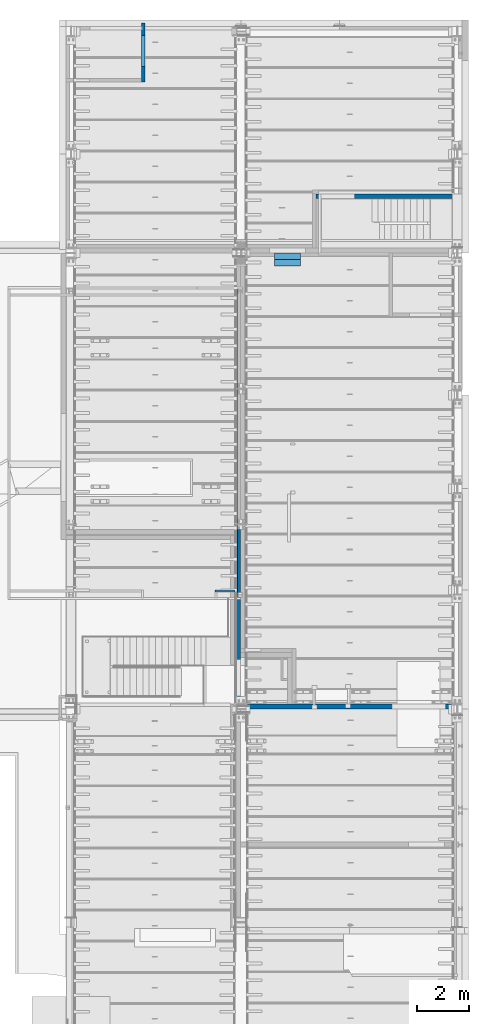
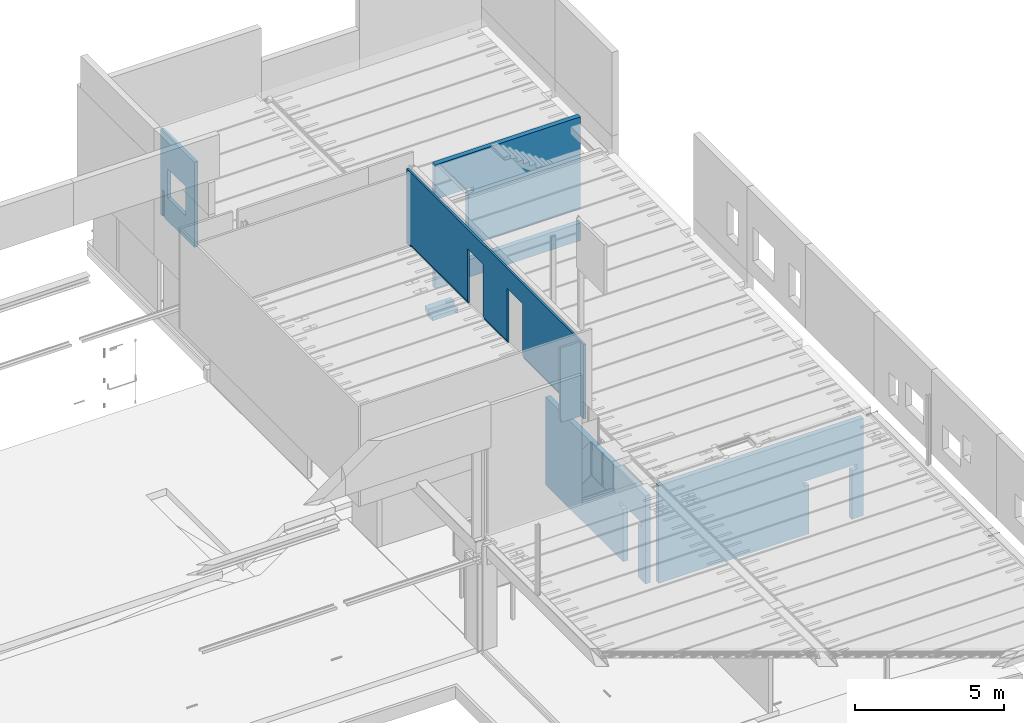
# One storey, part 211 of 230: 6 walls, 1 stair flight, 1 element without a shape of its own.
"""IFC4X3_ADD2 building model written with IfcOpenShell, lengths in millimetres."""

from ifc_helpers import new_model, si_unit, direction, frame, origin_with_axes, place, context, subcontext, project, spatial, polygons, source, transform, mapped, material, type_object, type_shapes, element, aggregate, save


model = new_model("IFC4X3_ADD2")

# Units and contexts
model_context = context("Model", 3, precision=1e-05, world=origin_with_axes(), true_north=direction((0.0, 1.0)))
body_context = subcontext(model_context, "Body", "Model", "MODEL_VIEW")
ifc_project = project(units=[si_unit("LENGTHUNIT", "METRE", prefix="MILLI"), si_unit("AREAUNIT", "SQUARE_METRE"), si_unit("VOLUMEUNIT", "CUBIC_METRE"), si_unit("PLANEANGLEUNIT", "RADIAN"), si_unit("TIMEUNIT", "SECOND"), si_unit("MASSUNIT", "GRAM")], contexts=[model_context])

# Site, building, storey
site_placement = place(None, origin_with_axes())
site = spatial("IfcSite", under=ifc_project, at=site_placement, Name="Site", CompositionType="ELEMENT")
building_placement = place(site_placement, origin_with_axes())
building = spatial("IfcBuilding", under=site, at=building_placement, Name="IFC Building Story")
storey_placement = place(building_placement, origin_with_axes())
storey = spatial("IfcBuildingStorey", under=building, at=storey_placement, Name="ETAGE 00 (0)", Elevation=0.0)

# Walls
ifc_material = material(Name="BS_22_Maçonnerie intérieure - Type4 -  en béton")
wall_type = type_object("IfcWallType", Name="Mur de base_BS_22_WA_BBTlourd190", PredefinedType="NOTDEFINED")
shared_shape = source(origin_with_axes(), body_context, "Body", "Tessellation", [
    polygons([(0.0, -95.0, 0.0), (5640.0, -95.0000000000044, 0.0), (5640.0, -95.0000000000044, 720.0), (0.0, -95.0, 720.0), (5640.0, 94.99999999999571, 0.0), (0.0, 95.0, 0.0), (0.0, 95.0, 720.0), (5640.0, 94.99999999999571, 720.0)], [[[1, 2, 3, 4]], [[5, 6, 7, 8]], [[2, 1, 6, 5]], [[2, 5, 8, 3]], [[4, 3, 8, 7]], [[6, 1, 4, 7]]]),
    polygons([(0.0, -95.0, 5070.0), (5640.0, -95.0000000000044, 5070.0), (5640.0, 94.99999999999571, 5070.0), (0.0, 95.0, 5070.0), (0.0, 95.0, 1300.0), (0.0, -95.0, 1300.0), (1490.0, -95.0000000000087, 3650.0), (1490.0, 95.0, 3650.0), (1490.0, 94.99999999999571, 3450.0), (1490.0, -95.0, 3450.0), (90.0, -95.0000000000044, 3650.0), (90.0, 95.0, 3650.0), (1290.0, 95.0, 3450.0), (1290.0, -95.0, 3450.0), (90.0, -95.0000000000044, 3450.0), (90.0, 95.0, 3450.0), (1290.0, -95.0, 1300.0), (1290.0, 95.0, 1300.0), (290.0, -95.0000000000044, 3450.0), (290.0, -95.0, 1300.0), (290.0, 94.99999999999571, 1300.0), (290.0, 95.0, 3450.0), (5640.0, -95.0000000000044, 1300.0), (5640.0, 94.99999999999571, 1300.0)], [[[1, 2, 3, 4]], [[1, 4, 5, 6]], [[7, 8, 9, 10]], [[8, 7, 11, 12]], [[10, 9, 13, 14]], [[15, 16, 12, 11]], [[17, 14, 13, 18]], [[19, 20, 21, 22]], [[20, 6, 5, 21]], [[23, 17, 18, 24]], [[3, 2, 23, 24]], [[16, 15, 19, 22]], [[16, 22, 21]], [[16, 21, 5]], [[5, 12, 16]], [[5, 4, 12]], [[4, 3, 8]], [[4, 8, 12]], [[3, 9, 8]], [[3, 24, 18]], [[3, 18, 9]], [[18, 13, 9]], [[10, 14, 17]], [[10, 17, 23]], [[10, 23, 2]], [[2, 7, 10]], [[2, 1, 11]], [[2, 11, 7]], [[1, 15, 11]], [[15, 1, 6]], [[6, 20, 19]], [[6, 19, 15]]]),
])
type_shapes(wall_type, [shared_shape])
wall_1_placement = place(storey_placement, frame((42861.6894781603, 19995.0000000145, -800.0), z_axis=(0.0, 0.0, 1.0), x_axis=(1.0, 0.0, 0.0)))
element("IfcWall", 1, at=wall_1_placement, inside=storey, type_object=wall_type, material=ifc_material, Name="Mur de base:BS_22_WA_BBTlourd190", ObjectType="Mur de base:BS_22_WA_BBTlourd190", context=body_context, shape_type="MappedRepresentation", body=[
    mapped(shared_shape, transform((0.0, 0.0, 0.0))),
])
wall_2_placement = place(storey_placement, origin_with_axes())
element("IfcWall", 2, at=wall_2_placement, inside=storey, Name="Mur de base:BS_22_WA_BBTlourd190", ObjectType="Mur de base:BS_22_WA_BBTlourd190", context=body_context, shape_type="Tessellation", body=[
    polygons([(39761.68947816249, 399.9999999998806, 0.0), (39761.68947816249, 399.9999999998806, 3600.0), (39761.68947816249, 7128.83965321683, 3600.0), (39761.68947816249, 7128.83965321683, 0.0), (39761.68947816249, 6938.83965321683, 0.0), (39761.68947816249, 1899.999793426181, 0.0), (39761.68947816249, 1899.999793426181, 2150.0), (39761.68947816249, 2104.887851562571, 2150.0), (39761.68947816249, 2104.887851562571, 2350.0), (39761.68947816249, 1899.999793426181, 2350.0), (39761.68947816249, 1899.999793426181, 2351.82144325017), (39761.68947816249, 894.9997934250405, 2351.82144325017), (39761.68947816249, 894.9997934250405, 2350.0), (39761.68947816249, 704.88785156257, 2350.0), (39761.68947816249, 704.88785156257, 2150.0), (39761.68947816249, 894.9997934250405, 2150.0), (39761.68947816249, 894.9997934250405, 0.0), (39951.68947816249, 399.9999999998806, 3600.0), (39951.68947816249, 399.9999999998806, 0.0), (39951.68947816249, 894.9997934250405, 0.0), (39951.68947816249, 894.9997934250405, 2150.0), (39951.68947816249, 704.88785156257, 2150.0), (39951.68947816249, 704.8878515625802, 2350.0), (39951.68947816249, 894.9997934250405, 2350.0), (39951.68947816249, 894.9997934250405, 2351.82144325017), (39951.68947816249, 1899.999793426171, 2351.82144325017), (39951.68947816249, 1899.999793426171, 2350.0), (39951.68947816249, 2104.887851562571, 2350.0), (39951.68947816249, 2104.88785156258, 2150.0), (39951.68947816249, 1899.999793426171, 2150.0), (39951.68947816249, 1899.999793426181, 0.0), (39951.68947816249, 2199.99999998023, 0.0), (39951.68947816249, 2389.99999998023, 0.0), (39951.68947816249, 7128.83965321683, 0.0), (39951.68947816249, 7128.83965321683, 3600.0)], [[[15, 16, 17]], [[17, 1, 2]], [[17, 2, 15]], [[2, 14, 15]], [[2, 12, 13]], [[2, 13, 14]], [[2, 11, 12]], [[2, 9, 11]], [[9, 10, 11]], [[9, 2, 3]], [[3, 8, 9]], [[3, 5, 6]], [[3, 6, 8]], [[6, 7, 8]], [[3, 4, 5]], [[32, 33, 29]], [[29, 30, 31]], [[29, 31, 32]], [[33, 34, 35]], [[33, 35, 28]], [[33, 28, 29]], [[35, 26, 28]], [[26, 27, 28]], [[35, 18, 25]], [[35, 25, 26]], [[18, 23, 25]], [[23, 24, 25]], [[18, 22, 23]], [[22, 18, 19]], [[22, 19, 20]], [[20, 21, 22]], [[5, 4, 34]], [[32, 31, 6]], [[6, 33, 32]], [[6, 5, 34]], [[6, 34, 33]], [[2, 1, 19, 18]], [[3, 2, 18, 35]], [[8, 29, 28, 9]], [[23, 14, 13, 24]], [[15, 22, 21, 16]], [[14, 23, 22, 15]], [[11, 26, 25, 12]], [[26, 11, 10, 27]], [[12, 25, 24, 13]], [[4, 3, 35, 34]], [[20, 17, 16, 21]], [[6, 31, 30, 7]], [[29, 8, 7, 30]], [[9, 28, 27, 10]], [[19, 1, 17, 20]]]),
])
wall_3_placement = place(storey_placement, origin_with_axes())
element("IfcWall", 3, at=wall_3_placement, inside=storey, Name="Mur de base:BS_22_WA_BBTlourd190", ObjectType="Mur de base:BS_22_WA_BBTlourd190", context=body_context, shape_type="Tessellation", body=[
    polygons([(48101.6894781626, 210.0000000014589, 0.0), (48101.6894781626, 210.0000000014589, 4000.0), (40161.6894781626, 210.0000000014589, 4000.0), (40161.6894781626, 210.0000000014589, 0.0), (45991.6894781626, 210.0000000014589, 0.0), (45991.6894781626, 210.0000000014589, 2000.0), (45791.6894781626, 210.000000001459, 2000.0), (45791.6894781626, 210.000000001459, 2200.0), (47851.6894781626, 210.0000000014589, 2200.0), (47851.6894781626, 210.0000000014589, 2000.0), (47651.6894781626, 210.0000000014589, 2000.0), (47651.6894781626, 210.0000000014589, 0.0), (48101.6894781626, 400.0000000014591, 4000.0), (48101.6894781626, 400.0000000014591, 0.0), (47651.6894781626, 400.0000000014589, 0.0), (47651.6894781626, 400.0000000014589, 2000.0), (47851.6894781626, 400.0000000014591, 2000.0), (47851.6894781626, 400.0000000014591, 2200.0), (45791.6894781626, 400.0000000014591, 2200.0), (45791.6894781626, 400.0000000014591, 2000.0), (45991.6894781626, 400.0000000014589, 2000.0), (45991.6894781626, 400.0000000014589, 0.0), (41941.6894781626, 400.0000000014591, 0.0), (41751.6894781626, 400.0000000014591, 0.0), (40161.6894781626, 400.0000000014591, 0.0), (40161.6894781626, 400.0000000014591, 4000.0), (41751.6894781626, 400.0000000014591, 4000.0), (41941.6894781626, 400.0000000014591, 4000.0)], [[[10, 11, 12]], [[10, 12, 1]], [[1, 2, 10]], [[2, 9, 10]], [[2, 3, 8]], [[2, 8, 9]], [[3, 4, 7]], [[3, 7, 8]], [[4, 5, 7]], [[5, 6, 7]], [[20, 21, 22]], [[24, 25, 26]], [[26, 23, 24]], [[20, 22, 23]], [[23, 26, 19]], [[23, 19, 20]], [[28, 13, 18]], [[28, 18, 19]], [[19, 27, 28]], [[19, 26, 27]], [[13, 14, 17]], [[13, 17, 18]], [[14, 15, 16]], [[14, 16, 17]], [[23, 22, 5]], [[23, 5, 4]], [[4, 24, 23]], [[4, 25, 24]], [[2, 1, 14, 13]], [[27, 26, 3]], [[3, 28, 27]], [[3, 2, 13]], [[3, 13, 28]], [[4, 3, 26, 25]], [[9, 18, 17, 10]], [[18, 9, 8, 19]], [[10, 17, 16, 11]], [[7, 20, 19, 8]], [[12, 11, 16, 15]], [[6, 5, 22, 21]], [[20, 7, 6, 21]], [[14, 1, 12, 15]]]),
])
wall_4_placement = place(storey_placement, origin_with_axes())
element("IfcWall", 4, at=wall_4_placement, inside=storey, Name="Mur de base:BS_22_WA_C1", ObjectType="Mur de base:BS_22_WA_C1", context=body_context, shape_type="Tessellation", body=[
    polygons([(36131.18947818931, 24414.50000000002, 4000.0), (36131.18947818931, 24550.50000000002, 4000.0), (36131.18947818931, 26680.0, 4000.0), (36131.18947818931, 26680.0, 500.0), (36131.18947818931, 26550.0, 500.0), (36131.18947818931, 26550.0, 1600.0), (36131.18947818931, 26409.49999999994, 1600.0), (36131.18947818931, 26409.49999999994, 500.0), (36131.18947818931, 24550.50000000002, 500.0), (36131.18947818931, 24414.50000000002, 500.0), (36131.18947818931, 25000.0, 2650.0), (36131.18947818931, 25000.0, 1450.0), (36131.18947818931, 26200.0, 1450.0), (36131.18947818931, 26200.0, 2650.0), (36267.18947818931, 26680.0, 4000.0), (36267.18947818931, 24414.50000000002, 4000.0), (36267.18947818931, 24414.50000000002, 500.0), (36267.18947818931, 26409.50000000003, 500.0), (36267.18947818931, 26409.50000000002, 1600.0), (36267.18947818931, 26550.0, 1600.0), (36267.18947818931, 26550.0, 500.0), (36267.18947818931, 26680.0, 500.0), (36267.18947818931, 25000.0, 1450.0), (36267.18947818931, 25000.0, 2650.0), (36267.18947818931, 26200.0, 2650.0), (36267.18947818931, 26200.0, 1450.0), (36236.6894781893, 26550.0, 500.0), (36236.6894781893, 26409.50000000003, 500.0), (36161.6894781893, 26409.49999999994, 500.0), (36161.6894781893, 26550.0, 500.0), (36161.6894781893, 26409.49999999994, 1600.0), (36161.6894781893, 26550.0, 1600.0), (36236.6894781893, 26409.50000000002, 1600.0), (36236.6894781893, 26550.0, 1600.0)], [[[9, 10, 1]], [[9, 1, 11]], [[13, 7, 8]], [[8, 9, 12]], [[8, 12, 13]], [[9, 11, 12]], [[14, 11, 2]], [[14, 2, 3]], [[3, 7, 14]], [[7, 13, 14]], [[3, 6, 7]], [[3, 4, 6]], [[4, 5, 6]], [[11, 1, 2]], [[20, 21, 22]], [[20, 22, 15]], [[15, 19, 20]], [[26, 23, 17]], [[26, 17, 18]], [[18, 19, 26]], [[19, 25, 26]], [[25, 19, 15]], [[15, 16, 24]], [[15, 24, 25]], [[16, 17, 23]], [[16, 23, 24]], [[9, 28, 18]], [[9, 18, 17]], [[17, 10, 9]], [[30, 5, 4]], [[4, 27, 30]], [[27, 28, 29]], [[27, 29, 30]], [[29, 28, 9]], [[9, 8, 29]], [[4, 22, 27]], [[22, 21, 27]], [[2, 1, 16]], [[16, 15, 3]], [[16, 3, 2]], [[4, 3, 15, 22]], [[1, 10, 17, 16]], [[12, 11, 24, 23]], [[11, 14, 25, 24]], [[14, 13, 26, 25]], [[23, 26, 13, 12]], [[31, 29, 8, 7]], [[30, 32, 6, 5]], [[29, 31, 32, 30]], [[32, 31, 7, 6]], [[28, 33, 19, 18]], [[34, 27, 21, 20]], [[33, 34, 20, 19]], [[33, 28, 27, 34]]]),
])
wall_5_placement = place(storey_placement, origin_with_axes())
element("IfcWall", 5, at=wall_5_placement, inside=storey, Name="Mur de base:BS_22_WA_CC2", ObjectType="Mur de base:BS_22_WA_CC2", context=body_context, shape_type="Tessellation", body=[
    polygons([(38958.68947811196, 4802.99999998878, 7330.0), (39741.6894781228, 4802.99999998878, 7330.0), (39741.6894781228, 4802.99999998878, 4370.0), (38958.68947811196, 4802.99999998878, 4370.0), (39741.6894781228, 4722.49999998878, 7330.0), (39039.18947811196, 4722.49999998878, 7330.0), (38958.68947811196, 4722.49999998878, 7330.0), (38958.68947811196, 4722.49999998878, 4370.0), (38991.6894781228, 4722.49999998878, 4370.0), (38991.6894781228, 4722.49999998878, 4270.0), (39039.18947811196, 4722.49999998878, 4270.0), (39741.6894781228, 4722.49999998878, 4270.0), (38991.6894781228, 4769.99999998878, 4270.0), (39741.6894781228, 4769.999999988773, 4270.0), (39741.6894781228, 4769.999999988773, 4370.0), (38991.6894781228, 4769.99999998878, 4370.0)], [[[1, 2, 3, 4]], [[9, 10, 11]], [[9, 11, 6]], [[9, 6, 7]], [[7, 8, 9]], [[11, 12, 5]], [[11, 5, 6]], [[11, 10, 13]], [[13, 14, 12]], [[13, 12, 11]], [[6, 5, 2]], [[6, 2, 1]], [[1, 7, 6]], [[16, 9, 8]], [[16, 8, 4]], [[4, 3, 15]], [[4, 15, 16]], [[13, 16, 15, 14]], [[7, 1, 4, 8]], [[16, 13, 10, 9]], [[15, 3, 2]], [[2, 5, 12]], [[2, 12, 15]], [[12, 14, 15]]]),
])
wall_6_placement = place(storey_placement, origin_with_axes())
element("IfcWall", 6, at=wall_6_placement, inside=storey, Name="Mur de base:BS_22_WA_CC2", ObjectType="Mur de base:BS_22_WA_CC2", context=body_context, shape_type="Tessellation", body=[
    polygons([(39741.68947812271, 4517.999999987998, 4270.0), (39741.68947812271, 4517.999999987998, 7330.0), (39741.68947812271, 4722.4999999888, 7330.0), (39741.68947812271, 4802.999999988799, 7330.0), (39741.68947812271, 16138.75000007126, 7330.0), (39741.6894781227, 16219.25000007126, 7330.0), (39741.6894781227, 16421.0000000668, 7330.0), (39741.6894781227, 16421.0000000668, 4270.0), (39741.6894781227, 16219.25000007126, 4270.0), (39741.68947812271, 16170.50000007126, 4270.0), (39741.68947812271, 16170.50000007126, 4370.0), (39741.68947812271, 16138.75000007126, 4370.0), (39741.6894781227, 12331.5000000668, 4370.0), (39741.6894781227, 12331.5000000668, 6520.0), (39741.6894781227, 11271.5000000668, 6520.0), (39741.6894781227, 11271.5000000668, 4370.0), (39741.68947812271, 9674.94120241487, 4370.0), (39741.68947812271, 9674.94120241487, 6520.0), (39741.68947812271, 8614.94120241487, 6520.0), (39741.68947812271, 8614.94120241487, 4370.0), (39741.68947812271, 4802.999999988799, 4370.0), (39741.68947812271, 4769.9999999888, 4370.0), (39741.68947812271, 4769.9999999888, 4270.0), (39741.68947812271, 4722.4999999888, 4270.0), (39822.1894781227, 4517.999999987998, 7330.0), (39822.1894781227, 4517.999999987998, 4270.0), (39822.1894781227, 8614.94120241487, 4270.0), (39822.1894781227, 8614.94120241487, 4370.0), (39822.1894781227, 8614.94120241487, 6520.0), (39822.1894781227, 9674.94120241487, 6520.0), (39822.1894781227, 9674.94120241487, 4370.0), (39822.1894781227, 9674.94120241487, 4270.0), (39822.1894781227, 11271.5000000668, 4270.0), (39822.1894781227, 11271.5000000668, 4370.0), (39822.1894781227, 11271.5000000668, 6520.0), (39822.1894781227, 12331.5000000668, 6520.0), (39822.1894781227, 12331.5000000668, 4370.0), (39822.1894781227, 12331.5000000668, 4270.0), (39822.1894781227, 16421.0000000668, 4270.0), (39822.1894781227, 16421.0000000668, 7330.0), (39774.68947812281, 12331.5000000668, 4270.0), (39774.68947812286, 16170.50000007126, 4270.0), (39772.18947812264, 9674.94120241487, 4370.0), (39772.18947812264, 9674.94120241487, 4270.0), (39774.6894781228, 8614.94120241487, 4270.0), (39774.6894781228, 8614.94120241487, 4370.0), (39774.68947812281, 12331.5000000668, 4370.0), (39772.18947812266, 11271.5000000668, 4270.0), (39772.18947812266, 11271.5000000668, 4370.0), (39774.68947812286, 16170.50000007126, 4370.0), (39774.68947812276, 4769.9999999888, 4370.0), (39774.68947812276, 4769.9999999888, 4270.0)], [[[6, 7, 8]], [[6, 8, 9]], [[11, 12, 5]], [[5, 6, 9]], [[5, 9, 11]], [[9, 10, 11]], [[19, 20, 21]], [[19, 21, 4]], [[4, 18, 19]], [[4, 15, 18]], [[15, 16, 17]], [[15, 17, 18]], [[4, 5, 15]], [[5, 14, 15]], [[5, 12, 13]], [[5, 13, 14]], [[22, 23, 24]], [[22, 24, 3]], [[22, 3, 4]], [[4, 21, 22]], [[24, 1, 2]], [[24, 2, 3]], [[31, 32, 33]], [[31, 33, 34]], [[37, 38, 39]], [[39, 40, 36]], [[39, 36, 37]], [[40, 35, 36]], [[40, 30, 35]], [[30, 31, 34]], [[30, 34, 35]], [[40, 25, 30]], [[25, 29, 30]], [[25, 26, 28]], [[25, 28, 29]], [[26, 27, 28]], [[9, 8, 42]], [[42, 10, 9]], [[42, 8, 39]], [[39, 38, 41]], [[39, 41, 42]], [[2, 1, 26, 25]], [[3, 2, 25]], [[25, 4, 3]], [[25, 40, 5]], [[25, 5, 4]], [[40, 6, 5]], [[40, 7, 6]], [[18, 30, 29, 19]], [[43, 44, 32]], [[43, 32, 31]], [[43, 31, 30]], [[43, 30, 18]], [[18, 17, 43]], [[28, 27, 45]], [[28, 45, 46]], [[46, 20, 19]], [[19, 29, 28]], [[19, 28, 46]], [[14, 36, 35, 15]], [[47, 41, 38]], [[47, 38, 37]], [[47, 37, 36]], [[47, 36, 14]], [[14, 13, 47]], [[34, 33, 48]], [[34, 48, 49]], [[49, 16, 15]], [[15, 35, 34]], [[15, 34, 49]], [[8, 7, 40, 39]], [[49, 43, 17, 16]], [[42, 50, 11, 10]], [[51, 46, 45, 52]], [[51, 52, 23, 22]], [[47, 50, 42, 41]], [[43, 49, 48, 44]], [[21, 20, 46]], [[21, 46, 51]], [[51, 22, 21]], [[12, 11, 50]], [[50, 47, 13]], [[50, 13, 12]], [[33, 32, 44, 48]], [[52, 45, 27]], [[52, 27, 26]], [[26, 24, 52]], [[24, 23, 52]], [[26, 1, 24]]]),
])

# Stair, stair flight
stair_placement = place(storey_placement, origin_with_axes())
stair = element("IfcStair", 7, at=stair_placement, inside=storey, Name="Escalier coulé sur place:Escalier", ObjectType="Escalier coulé sur place:BS_24_STR_Escalier menuiserie", PredefinedType="STRAIGHT_RUN_STAIR")
stair_flight_placement = place(stair_placement, origin_with_axes())
stair_flight = element("IfcStairFlight", 8, at=stair_flight_placement, Name="Escalier coulé sur place:Escalier:1628013 Run 1", ObjectType="Volée monobloc:BS_24_STR_Volée monobloc", NumberOfTreads=2, RiserHeight=0.546806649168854, TreadLength=0.820209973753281, context=body_context, shape_type="Tessellation", body=[
    polygons([(41261.6894781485, 17560.0, 166.666666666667), (41261.6894781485, 17310.0, 166.666666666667), (42261.6894781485, 17310.0, 166.666666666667), (42261.6894781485, 17560.0, 166.666666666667), (41261.6894781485, 17560.0, 0.0), (41261.6894781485, 17310.0, 0.0), (42261.6894781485, 17310.0, 0.0), (42261.6894781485, 17560.0, 0.0), (41261.6894781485, 17810.0, 333.333333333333), (41261.6894781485, 17560.0, 333.333333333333), (42261.6894781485, 17560.0, 333.333333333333), (42261.6894781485, 17810.0, 333.333333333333), (41261.6894781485, 17810.0, 153.055769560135), (41261.6894781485, 17580.4163456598, 0.0), (42261.6894781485, 17580.4163456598, 0.0), (42261.6894781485, 17810.0, 153.055769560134)], [[[1, 2, 3, 4]], [[2, 1, 5, 6]], [[3, 2, 6, 7]], [[4, 3, 7, 8]], [[9, 10, 11, 12]], [[1, 10, 9]], [[1, 9, 13]], [[13, 14, 5]], [[13, 5, 1]], [[1, 4, 11, 10]], [[4, 8, 15]], [[4, 15, 16]], [[16, 12, 11]], [[16, 11, 4]], [[9, 12, 16, 13]], [[5, 14, 15]], [[5, 15, 8]], [[8, 7, 6]], [[8, 6, 5]], [[15, 14, 13, 16]]]),
])
aggregate(stair, [stair_flight])

save(model, "model.ifc")
